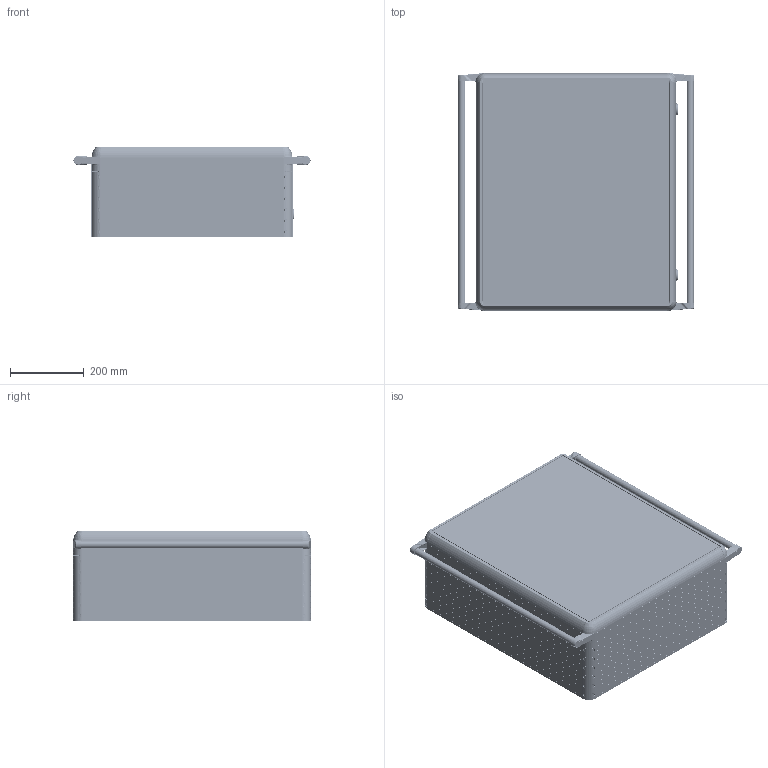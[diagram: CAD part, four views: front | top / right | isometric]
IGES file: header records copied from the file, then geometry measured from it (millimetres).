
Start section: SolidWorks IGES file using analytic representation for surfaces
Global section: file name: D:\PANO_STEP\1590\1590 datalar\1590-0215.IGS; native system: SolidWorks 2022; preprocessor: SolidWorks 2022; author: User; date: 220422.140536; units: millimetre
Bounding box: 644.62 x 647 x 247.37 mm (x, y, z)
Surface area: 4072166.7 mm2 (no closed solid volume)
Topology: 0 solids, 0 shells, 14666 faces, 119240 edges, 118906 vertices
Faces by surface type: bspline 9678, revolution 4988
